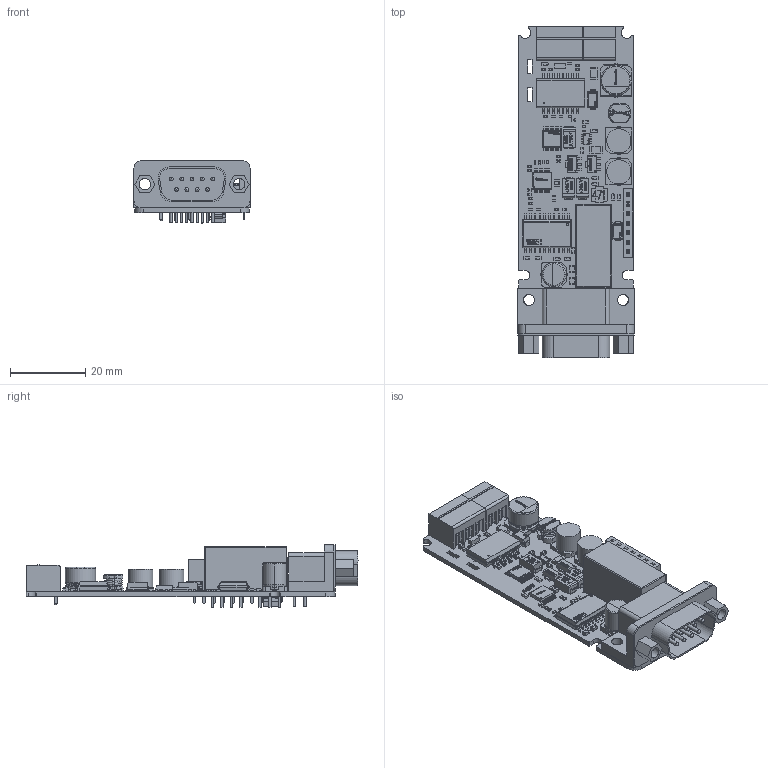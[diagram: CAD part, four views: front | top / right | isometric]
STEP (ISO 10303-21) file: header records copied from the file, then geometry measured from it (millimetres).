
FILE_DESCRIPTION(('Open CASCADE Model'),'2;1');
FILE_NAME('Open CASCADE Shape Model','2026-11-26T12:24:09',('Author'),( 'Open CASCADE'),'Open CASCADE STEP processor 7.5','Open CASCADE 7.5' ,'Unknown');
FILE_SCHEMA(('AUTOMOTIVE_DESIGN { 1 0 10303 214 1 1 1 1 }'));
Length unit declared in the file: millimetre
Products named in the file (176): Open CASCADE STEP translator 7.5 477; Open CASCADE STEP translator 7.5 478; Open CASCADE STEP translator 7.5 479; Open CASCADE STEP translator 7.5 480; Open CASCADE STEP translator 7.5 481; Open CASCADE STEP translator 7.5 482; Open CASCADE STEP translator 7.5 483; Open CASCADE STEP translator 7.5 484; Open CASCADE STEP translator 7.5 485; Open CASCADE STEP translator 7.5 486; Open CASCADE STEP translator 7.5 487; Open CASCADE STEP translator 7.5 488; Open CASCADE STEP translator 7.5 489; Open CASCADE STEP translator 7.5 490; Open CASCADE STEP translator 7.5 491; Open CASCADE STEP translator 7.5 492; Open CASCADE STEP translator 7.5 493; Open CASCADE STEP translator 7.5 494; Open CASCADE STEP translator 7.5 495; Open CASCADE STEP translator 7.5 496; Open CASCADE STEP translator 7.5 497; Open CASCADE STEP translator 7.5 498; Open CASCADE STEP translator 7.5 499; Open CASCADE STEP translator 7.5 500; Open CASCADE STEP translator 7.5 501; Open CASCADE STEP translator 7.5 502; Open CASCADE STEP translator 7.5 503; Open CASCADE STEP translator 7.5 504; Open CASCADE STEP translator 7.5 505; Open CASCADE STEP translator 7.5 506; Open CASCADE STEP translator 7.5 507; Open CASCADE STEP translator 7.5 508; Open CASCADE STEP translator 7.5 509; Open CASCADE STEP translator 7.5 510; Open CASCADE STEP translator 7.5 511; Open CASCADE STEP translator 7.5 512; Open CASCADE STEP translator 7.5 513; Open CASCADE STEP translator 7.5 514; Open CASCADE STEP translator 7.5 515; Open CASCADE STEP translator 7.5 516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
Bounding box: 30.82 x 88.1 x 16.6 mm (x, y, z)
Volume: 9524.6 mm3; surface area: 16573.2 mm2
Topology: 421 solids, 422 shells, 8093 faces, 20437 edges, 13076 vertices
Faces by surface type: plane 5044, bspline 1506, cylinder 1184, sphere 267, torus 58, extrusion 14, cone 10, revolution 10
Full cylindrical faces by diameter (mm): 0.197 x2, 0.328 x1, 0.38 x1, 0.4 x1, 0.559 x2, 0.6 x9, 0.646 x1, 0.9 x9, 1 x9, 1.02 x7, 1.2 x12, 3 x6, 3.07 x2, 3.6 x1, 6.462 x2, 7.43 x1, 8 x2
Entity records: 284602 total; most frequent: CARTESIAN_POINT 75800, ORIENTED_EDGE 40412, DIRECTION 33374, EDGE_CURVE 20206, VECTOR 14556, LINE 14542, VERTEX_POINT 13058, AXIS2_PLACEMENT_3D 9404
